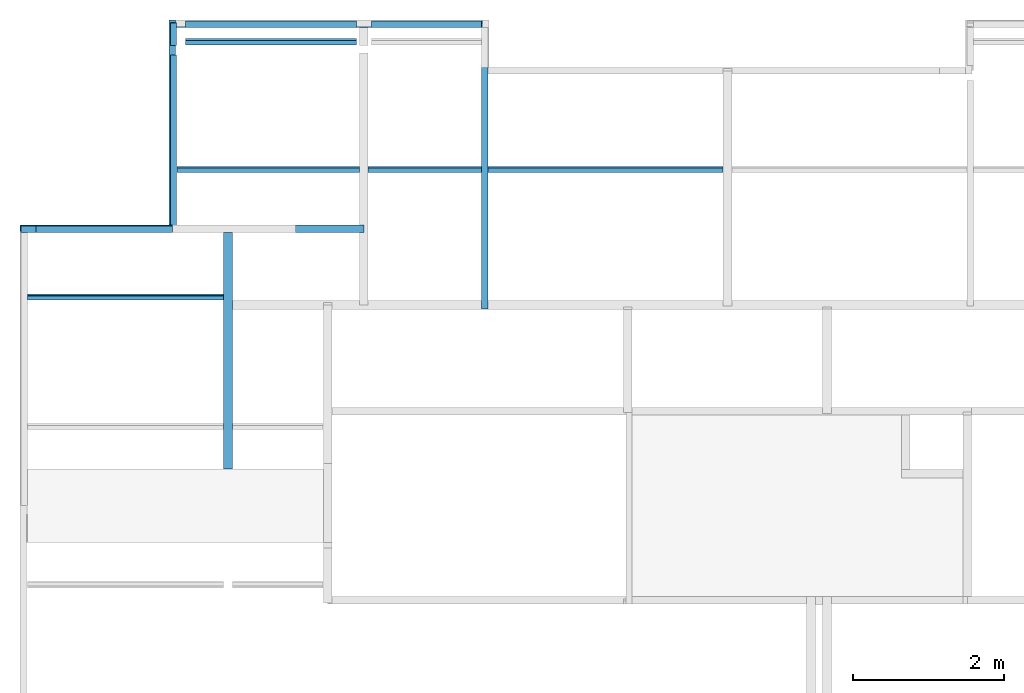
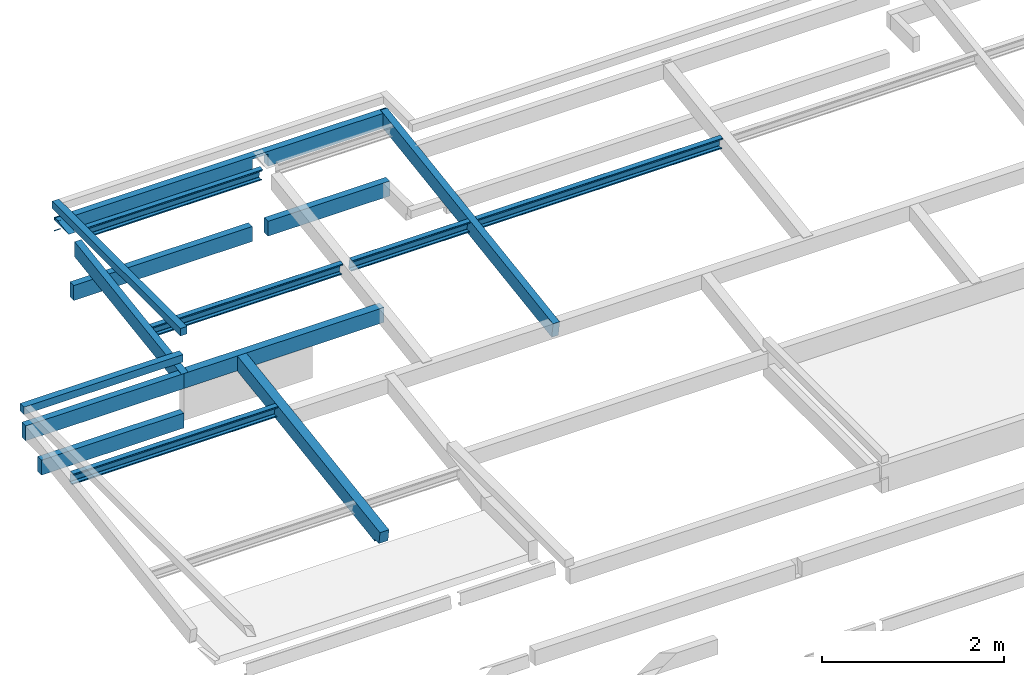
# One storey, part 4 of 9: 15 beams.
"""IFC4 building model written with IfcOpenShell, lengths in metres."""

import ifcopenshell
import ifcopenshell.guid

model = None  # the IFC model being written
_history = None  # IfcOwnerHistory: only IFC2X3 demands one
_inside = {}  # id of a spatial element -> (the spatial element, [elements in it])
_under = {}  # id of a project, library or spatial element -> (it, [spatial elements below it])
_declared = {}  # id of a project -> (the project, [libraries it declares])
_typed = {}  # id of a type object -> (the type object, [elements of that type])
_made_of = {}  # id of a material, layer set ... -> (it, [elements and type objects made of it])


def new_model(schema):
    """Start an empty IFC model of exactly this schema.

    Asked for "IFC4X3", IfcOpenShell would pick the latest addendum, in which some entities
    have other attributes; the version numbers below select the first issue.
    IFC2X3 requires an IfcOwnerHistory on every rooted entity: one is made here for all.
    """
    global model, _history
    if schema == "IFC4X3":
        model = ifcopenshell.file(schema_version=(4, 3, 0, 0))
    else:
        model = ifcopenshell.file(schema=schema)
    _inside.clear()
    _under.clear()
    _declared.clear()
    _typed.clear()
    _made_of.clear()
    _history = None
    if model.schema == "IFC2X3":
        org = make("IfcOrganization", Name="unknown")
        user = make(
            "IfcPersonAndOrganization",
            ThePerson=make("IfcPerson", FamilyName="unknown"),
            TheOrganization=org,
        )
        app = make(
            "IfcApplication",
            ApplicationDeveloper=org,
            Version="unknown",
            ApplicationFullName="unknown",
            ApplicationIdentifier="unknown",
        )
        _history = make(
            "IfcOwnerHistory",
            OwningUser=user,
            OwningApplication=app,
            ChangeAction="ADDED",
            CreationDate=0,
        )
    return model


def make(cls, **values):
    """One entity of the class cls with the attributes given. An attribute that is None is left unset."""
    return model.create_entity(
        cls, **{name: value for name, value in values.items() if value is not None}
    )


def entity(cls, *values):
    """Any entity or typed value of the class cls, its attributes in the order of the schema. None: left unset."""
    e = model.create_entity(cls)
    for i, value in enumerate(values):
        if value is not None:
            e[i] = value
    return e


def rooted(cls, **values):
    """An entity with a GlobalId (a new one), such as an element, a storey or a relation."""
    return make(cls, GlobalId=ifcopenshell.guid.new(), OwnerHistory=_history, **values)


def si_unit(unit_type, name, prefix=None):
    """IfcSIUnit, for example si_unit("LENGTHUNIT", "METRE", prefix="MILLI")."""
    return make("IfcSIUnit", UnitType=unit_type, Prefix=prefix, Name=name)


def converted_unit(unit_type, name, factor, base, dimensions=None, offset=None):
    """IfcConversionBasedUnit, such as the inch: factor (a typed value) times the base unit."""
    return make(
        "IfcConversionBasedUnit"
        if offset is None
        else "IfcConversionBasedUnitWithOffset",
        ConversionOffset=offset,
        Dimensions=None
        if dimensions is None
        else entity("IfcDimensionalExponents", *dimensions),
        UnitType=unit_type,
        Name=name,
        ConversionFactor=make(
            "IfcMeasureWithUnit", ValueComponent=factor, UnitComponent=base
        ),
    )


def derived_unit(unit_type, elements):
    """IfcDerivedUnit: a product of units, each with its exponent."""
    return make(
        "IfcDerivedUnit",
        Elements=[
            make("IfcDerivedUnitElement", Unit=unit, Exponent=power)
            for unit, power in elements
        ],
        UnitType=unit_type,
    )


def assignment(units):
    """IfcUnitAssignment: the units of a project."""
    return None if units is None else make("IfcUnitAssignment", Units=units)


def point(xyz):
    """IfcCartesianPoint."""
    return None if xyz is None else make("IfcCartesianPoint", Coordinates=xyz)


def direction(xyz):
    """IfcDirection."""
    return None if xyz is None else make("IfcDirection", DirectionRatios=xyz)


def frame(location, z_axis=None, x_axis=None):
    """IfcAxis2Placement3D, a coordinate frame: its origin and axes. An axis left out is left unset."""
    return make(
        "IfcAxis2Placement3D",
        Location=point(location),
        Axis=direction(z_axis),
        RefDirection=direction(x_axis),
    )


def origin():
    """The frame at (0, 0, 0) with its axes left unset."""
    return frame((0.0, 0.0, 0.0))


def place(relative_to, where):
    """IfcLocalPlacement: puts the frame where relative to a parent placement (None: the world)."""
    return make(
        "IfcLocalPlacement", PlacementRelTo=relative_to, RelativePlacement=where
    )


def context(
    kind, dimensions, precision=None, world=None, true_north=None, identifier=None
):
    """IfcGeometricRepresentationContext, for example the 3D "Model" context."""
    return make(
        "IfcGeometricRepresentationContext",
        ContextIdentifier=identifier,
        ContextType=kind,
        CoordinateSpaceDimension=dimensions,
        Precision=precision,
        WorldCoordinateSystem=world,
        TrueNorth=true_north,
    )


def subcontext(parent, identifier, kind, view, scale=None):
    """IfcGeometricRepresentationSubContext, for example "Body" below "Model"."""
    return make(
        "IfcGeometricRepresentationSubContext",
        ContextIdentifier=identifier,
        ContextType=kind,
        ParentContext=parent,
        TargetScale=scale,
        TargetView=view,
    )


def project(units=None, contexts=None):
    """IfcProject with its units and contexts."""
    return rooted(
        "IfcProject",
        Name="project",
        RepresentationContexts=contexts,
        UnitsInContext=assignment(units),
    )


def spatial(cls, under=None, at=None, **own):
    """A site, building, storey or space (cls), placed at a placement, below another one or the project."""
    s = rooted(cls, ObjectPlacement=at, **own)
    if under is not None:
        _under.setdefault(under.id(), (under, []))[1].append(s)
    return s


def point_list(points):
    """IfcCartesianPointList2D or 3D."""
    cls = (
        "IfcCartesianPointList2D" if len(points[0]) == 2 else "IfcCartesianPointList3D"
    )
    return make(cls, CoordList=points)


def line(*indices):
    """IfcLineIndex: a straight run through numbered points of an indexed curve."""
    return model.create_entity("IfcLineIndex", indices)


def arc(*indices):
    """IfcArcIndex: an arc through three numbered points of an indexed curve."""
    return model.create_entity("IfcArcIndex", indices)


def indexed_curve(points, segments=None, self_intersect=None):
    """IfcIndexedPolyCurve: lines and arcs through numbered points (the first is 1)."""
    return make(
        "IfcIndexedPolyCurve",
        Points=point_list(points),
        Segments=segments,
        SelfIntersect=self_intersect,
    )


def outline(outer, holes=None, kind="AREA"):
    """IfcArbitraryClosedProfileDef: a profile drawn as a closed curve; with holes, ...WithVoids."""
    if holes is None:
        return make("IfcArbitraryClosedProfileDef", ProfileType=kind, OuterCurve=outer)
    return make(
        "IfcArbitraryProfileDefWithVoids",
        ProfileType=kind,
        OuterCurve=outer,
        InnerCurves=holes,
    )


def extrude(swept, where, along, depth):
    """IfcExtrudedAreaSolid: the profile swept, set in the frame where, extruded along a direction by depth."""
    return make(
        "IfcExtrudedAreaSolid",
        SweptArea=swept,
        Position=where,
        ExtrudedDirection=direction(along),
        Depth=depth,
    )


def shape(context_of_items, identifier, shape_type, items):
    """IfcShapeRepresentation: the items that make up one representation, for example the "Body"."""
    return make(
        "IfcShapeRepresentation",
        ContextOfItems=context_of_items,
        RepresentationIdentifier=identifier,
        RepresentationType=shape_type,
        Items=items,
    )


def source(mapping_origin, context_of_items, identifier, shape_type, items):
    """IfcRepresentationMap: a shape defined once, which mapped items show again and again."""
    return make(
        "IfcRepresentationMap",
        MappingOrigin=mapping_origin,
        MappedRepresentation=shape(context_of_items, identifier, shape_type, items),
    )


def transform(
    local_origin,
    x_axis=None,
    y_axis=None,
    z_axis=None,
    scale=None,
    scale2=None,
    scale3=None,
    uniform=True,
):
    """IfcCartesianTransformationOperator3D, or its non-uniform kind. x_axis, y_axis, z_axis: its Axis1, 2, 3."""
    if uniform:
        return make(
            "IfcCartesianTransformationOperator3D",
            Axis1=direction(x_axis),
            Axis2=direction(y_axis),
            LocalOrigin=point(local_origin),
            Scale=scale,
            Axis3=direction(z_axis),
        )
    return make(
        "IfcCartesianTransformationOperator3DnonUniform",
        Axis1=direction(x_axis),
        Axis2=direction(y_axis),
        LocalOrigin=point(local_origin),
        Scale=scale,
        Axis3=direction(z_axis),
        Scale2=scale2,
        Scale3=scale3,
    )


def mapped(mapping_source, mapping_target):
    """IfcMappedItem: shows the shape of a source again, moved by a transform."""
    return make(
        "IfcMappedItem", MappingSource=mapping_source, MappingTarget=mapping_target
    )


def material(Name=None, Category=None):
    """IfcMaterial."""
    return make("IfcMaterial", Name=Name, Category=Category)


def made_of(thing, what):
    """Note that an element or type object is made of a material, layer set ...; save() writes the relation."""
    if what is not None:
        _made_of.setdefault(what.id(), (what, []))[1].append(thing)
    return thing


def type_object(cls, material=None, **own):
    """A type object (cls), such as IfcWallType, which elements share."""
    return made_of(rooted(cls, **own), material)


def type_shapes(of_type, sources):
    """Give a type object the sources (RepresentationMaps) that its elements show as mapped items."""
    of_type.RepresentationMaps = sources


def element(
    cls,
    number,
    at=None,
    inside=None,
    cuts=None,
    type_object=None,
    material=None,
    context=None,
    identifier="Body",
    shape_type=None,
    held_by="IfcProductDefinitionShape",
    body=None,
    shapes=None,
    **own,
):
    """One element of the class cls, such as IfcWall. Its Tag is "e" and its number.

    at: its placement. inside: the storey or other place that contains it. cuts: it is an
    opening in that element (IfcRelVoidsElement). A single representation is given by context,
    identifier, shape_type and body (its items); several are given by shapes. held_by: the class
    of the entity that holds the representations. save() writes the other relations.
    """
    e = rooted(cls, Tag="e%d" % number, ObjectPlacement=at, **own)
    if body is not None:
        shapes = [shape(context, identifier, shape_type, body)]
    if shapes is not None:
        e.Representation = make(held_by, Representations=shapes)
    if inside is not None:
        _inside.setdefault(inside.id(), (inside, []))[1].append(e)
    if cuts is not None:
        rooted(
            "IfcRelVoidsElement", RelatingBuildingElement=cuts, RelatedOpeningElement=e
        )
    if type_object is not None:
        _typed.setdefault(type_object.id(), (type_object, []))[1].append(e)
    return made_of(e, material)


def aggregate(whole, parts):
    """IfcRelAggregates: a whole, such as a stair, and the parts it consists of."""
    return rooted("IfcRelAggregates", RelatingObject=whole, RelatedObjects=parts)


def save(model, path):
    """Write the relations noted so far, then the file.

    IfcRelAggregates (storeys below a building ...), IfcRelContainedInSpatialStructure (elements
    in a storey), IfcRelDefinesByType, IfcRelAssociatesMaterial and IfcRelDeclares: one each for
    every whole, place, type object, material and project.
    """
    for whole, parts in _under.values():
        aggregate(whole, parts)
    for where, things in _inside.values():
        rooted(
            "IfcRelContainedInSpatialStructure",
            RelatedElements=things,
            RelatingStructure=where,
        )
    for kind, things in _typed.values():
        rooted("IfcRelDefinesByType", RelatedObjects=things, RelatingType=kind)
    for what, things in _made_of.values():
        rooted("IfcRelAssociatesMaterial", RelatedObjects=things, RelatingMaterial=what)
    for by, libraries in _declared.values():
        rooted("IfcRelDeclares", RelatingContext=by, RelatedDefinitions=libraries)
    model.write(path)


model = new_model("IFC4")

# Units and contexts
model_context = context("Model", 3, precision=1e-05, world=origin(), true_north=direction((6.123031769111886e-17, 1.0)))
body_context = subcontext(model_context, "Body", "Model", "MODEL_VIEW")
ifc_project = project(units=[si_unit("LENGTHUNIT", "METRE"), si_unit("AREAUNIT", "SQUARE_METRE"), si_unit("VOLUMEUNIT", "CUBIC_METRE"), converted_unit("PLANEANGLEUNIT", "DEGREE", entity("IfcRatioMeasure", 0.017453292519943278), si_unit("PLANEANGLEUNIT", "RADIAN"), dimensions=[0, 0, 0, 0, 0, 0, 0]), si_unit("MASSUNIT", "GRAM", prefix="KILO"), derived_unit("MASSDENSITYUNIT", [(si_unit("MASSUNIT", "GRAM", prefix="KILO"), 1), (si_unit("LENGTHUNIT", "METRE"), -3)]), derived_unit("IONCONCENTRATIONUNIT", [(si_unit("MASSUNIT", "GRAM", prefix="KILO"), 1), (si_unit("LENGTHUNIT", "METRE"), -3)]), derived_unit("MOMENTOFINERTIAUNIT", [(si_unit("LENGTHUNIT", "METRE"), 4)]), si_unit("TIMEUNIT", "SECOND"), si_unit("FREQUENCYUNIT", "HERTZ"), si_unit("THERMODYNAMICTEMPERATUREUNIT", "DEGREE_CELSIUS"), derived_unit("THERMALTRANSMITTANCEUNIT", [(si_unit("MASSUNIT", "GRAM", prefix="KILO"), 1), (si_unit("THERMODYNAMICTEMPERATUREUNIT", "KELVIN"), -1), (si_unit("TIMEUNIT", "SECOND"), -3)]), derived_unit("THERMALCONDUCTANCEUNIT", [(si_unit("MASSUNIT", "GRAM", prefix="KILO"), 1), (si_unit("THERMODYNAMICTEMPERATUREUNIT", "KELVIN"), -1), (si_unit("TIMEUNIT", "SECOND"), -3), (si_unit("LENGTHUNIT", "METRE"), 1)]), derived_unit("VOLUMETRICFLOWRATEUNIT", [(si_unit("LENGTHUNIT", "METRE"), 3), (si_unit("TIMEUNIT", "SECOND"), -1)]), derived_unit("MASSFLOWRATEUNIT", [(si_unit("MASSUNIT", "GRAM", prefix="KILO"), 1), (si_unit("TIMEUNIT", "SECOND"), -1)]), derived_unit("ROTATIONALFREQUENCYUNIT", [(si_unit("TIMEUNIT", "SECOND"), -1)]), si_unit("ELECTRICCURRENTUNIT", "AMPERE"), si_unit("ELECTRICVOLTAGEUNIT", "VOLT"), si_unit("POWERUNIT", "WATT"), si_unit("FORCEUNIT", "NEWTON", prefix="KILO"), si_unit("ILLUMINANCEUNIT", "LUX"), si_unit("LUMINOUSFLUXUNIT", "LUMEN"), si_unit("LUMINOUSINTENSITYUNIT", "CANDELA"), derived_unit("USERDEFINED", [(si_unit("MASSUNIT", "GRAM", prefix="KILO"), -1), (si_unit("LENGTHUNIT", "METRE"), -2), (si_unit("TIMEUNIT", "SECOND"), 3), (si_unit("LUMINOUSFLUXUNIT", "LUMEN"), 1)]), derived_unit("USERDEFINED", [(si_unit("MASSUNIT", "GRAM", prefix="KILO"), 1), (si_unit("TIMEUNIT", "SECOND"), -3), (si_unit("LENGTHUNIT", "METRE"), 3), (si_unit("ELECTRICCURRENTUNIT", "AMPERE"), -2)]), derived_unit("SOUNDPOWERUNIT", [(si_unit("MASSUNIT", "GRAM", prefix="KILO"), 1), (si_unit("TIMEUNIT", "SECOND"), -3), (si_unit("LENGTHUNIT", "METRE"), 2)]), derived_unit("SOUNDPRESSUREUNIT", [(si_unit("MASSUNIT", "GRAM", prefix="KILO"), 1), (si_unit("LENGTHUNIT", "METRE"), -1), (si_unit("TIMEUNIT", "SECOND"), -2)]), derived_unit("LINEARVELOCITYUNIT", [(si_unit("LENGTHUNIT", "METRE"), 1), (si_unit("TIMEUNIT", "SECOND"), -1)]), si_unit("PRESSUREUNIT", "PASCAL"), derived_unit("USERDEFINED", [(si_unit("MASSUNIT", "GRAM", prefix="KILO"), 1), (si_unit("LENGTHUNIT", "METRE"), -2), (si_unit("TIMEUNIT", "SECOND"), -2)]), derived_unit("LINEARFORCEUNIT", [(si_unit("MASSUNIT", "GRAM", prefix="KILO"), 1), (si_unit("TIMEUNIT", "SECOND"), -2)]), derived_unit("PLANARFORCEUNIT", [(si_unit("MASSUNIT", "GRAM", prefix="KILO"), 1), (si_unit("LENGTHUNIT", "METRE"), -1), (si_unit("TIMEUNIT", "SECOND"), -2)]), derived_unit("SPECIFICHEATCAPACITYUNIT", [(si_unit("THERMODYNAMICTEMPERATUREUNIT", "KELVIN"), -1), (si_unit("LENGTHUNIT", "METRE"), 2), (si_unit("TIMEUNIT", "SECOND"), -2)]), derived_unit("HEATINGVALUEUNIT", [(si_unit("LENGTHUNIT", "METRE"), 2), (si_unit("TIMEUNIT", "SECOND"), -2)]), derived_unit("VAPORPERMEABILITYUNIT", [(si_unit("LENGTHUNIT", "METRE"), -1), (si_unit("TIMEUNIT", "SECOND"), 1)]), derived_unit("DYNAMICVISCOSITYUNIT", [(si_unit("MASSUNIT", "GRAM", prefix="KILO"), 1), (si_unit("TIMEUNIT", "SECOND"), -1), (si_unit("LENGTHUNIT", "METRE"), -1)]), derived_unit("THERMALEXPANSIONCOEFFICIENTUNIT", [(si_unit("THERMODYNAMICTEMPERATUREUNIT", "KELVIN"), -1)]), derived_unit("MODULUSOFELASTICITYUNIT", [(si_unit("MASSUNIT", "GRAM", prefix="KILO"), 1), (si_unit("LENGTHUNIT", "METRE"), -1), (si_unit("TIMEUNIT", "SECOND"), -2)]), derived_unit("ISOTHERMALMOISTURECAPACITYUNIT", [(si_unit("LENGTHUNIT", "METRE"), 3), (si_unit("MASSUNIT", "GRAM", prefix="KILO"), -1)]), derived_unit("MOISTUREDIFFUSIVITYUNIT", [(si_unit("TIMEUNIT", "SECOND"), -1), (si_unit("LENGTHUNIT", "METRE"), 2)])], contexts=[model_context])

# Site, building, storey
site_placement = place(None, origin())
site = spatial("IfcSite", under=ifc_project, at=site_placement, Name="Default", CompositionType="ELEMENT")
building_placement = place(site_placement, origin())
building = spatial("IfcBuilding", under=site, at=building_placement, Name="Las nubes", CompositionType="ELEMENT")
storey_placement = place(building_placement, frame((0.0, 0.0, 14.100000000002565)))
storey = spatial("IfcBuildingStorey", under=building, at=storey_placement, Name="CUBIERTA", CompositionType="ELEMENT", Elevation=14.100000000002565)

# Beams
ifc_material_1 = material(Name="Concrete, Cast In Situ", Category="Materials")
beam_type_1 = type_object("IfcBeamType", Name="M_Concrete-Rectangular Beam:(0.085x0.20)", PredefinedType="BEAM", material=ifc_material_1)
shared_shape_1 = source(origin(), body_context, "Body", "SweptSolid", [
    extrude(outline(indexed_curve([(-0.09999999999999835, -0.04250000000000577), (0.10000000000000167, -0.04250000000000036), (0.10000000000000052, 0.04250000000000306), (-0.0999999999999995, 0.04250000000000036), (-0.09999999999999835, -0.04250000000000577)], self_intersect=False)), frame((0.17250000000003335, -2.7675051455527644, 14.10000000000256), z_axis=(1.0, 0.0, 0.0), x_axis=(0.0, 0.0, -1.0)), (0.0, 0.0, 1.0), 1.8024999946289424),
])
type_shapes(beam_type_1, [shared_shape_1])
beam_1_placement = place(storey_placement, frame((0.0, 0.0, -14.100000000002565)))
element("IfcBeam", 1, at=beam_1_placement, inside=storey, type_object=beam_type_1, material=ifc_material_1, Name="M_Concrete-Rectangular Beam:(0.085x0.20)", ObjectType="M_Concrete-Rectangular Beam:(0.085x0.20)", PredefinedType="BEAM", context=body_context, shape_type="MappedRepresentation", body=[
    mapped(shared_shape_1, transform((0.0, 0.0, 0.0), scale=1.0)),
])
beam_type_2 = type_object("IfcBeamType", Name="M_Concrete-Rectangular Beam:(0.085x0.20)", PredefinedType="BEAM", material=ifc_material_1)
shared_shape_2 = source(origin(), body_context, "Body", "SweptSolid", [
    extrude(outline(indexed_curve([(-0.09999999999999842, -0.04250000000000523), (0.1000000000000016, -0.04250000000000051), (0.10000000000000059, 0.042500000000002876), (-0.09999999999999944, 0.04250000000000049), (-0.09999999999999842, -0.04250000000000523)], self_intersect=False)), frame((4.609999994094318, -0.05250002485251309, 14.10000000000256), z_axis=(1.0, 0.0, 0.0), x_axis=(0.0, 0.0, -1.0)), (0.0, 0.0, 1.0), 1.5424999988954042),
    extrude(outline(indexed_curve([(-0.09999999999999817, -0.0425000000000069), (0.10000000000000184, -0.042499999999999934), (0.10000000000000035, 0.04250000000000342), (-0.09999999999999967, 0.04249999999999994), (-0.09999999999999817, -0.0425000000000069)], self_intersect=False)), frame((2.14749999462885, -0.05250002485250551, 14.10000000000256), z_axis=(1.0, 0.0, 0.0), x_axis=(0.0, 0.0, -1.0)), (0.0, 0.0, 1.0), 2.2624999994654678),
])
type_shapes(beam_type_2, [shared_shape_2])
beam_2_placement = place(storey_placement, frame((0.0, 0.0, -14.100000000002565)))
element("IfcBeam", 2, at=beam_2_placement, inside=storey, type_object=beam_type_2, material=ifc_material_1, Name="M_Concrete-Rectangular Beam:(0.085x0.20)", ObjectType="M_Concrete-Rectangular Beam:(0.085x0.20)", PredefinedType="BEAM", context=body_context, shape_type="MappedRepresentation", body=[
    mapped(shared_shape_2, transform((0.0, 0.0, 0.0), scale=1.0)),
])
beam_type_3 = type_object("IfcBeamType", Name="M_Concrete-Rectangular Beam:(0.115x0.20)", PredefinedType="BEAM", material=ifc_material_1)
shared_shape_3 = source(origin(), body_context, "Body", "SweptSolid", [
    extrude(outline(indexed_curve([(-0.08234346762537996, -0.7210921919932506), (-0.07593692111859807, -0.7210921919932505), (0.07816478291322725, -0.7210921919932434), (0.0918329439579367, -0.6299711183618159), (0.1176565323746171, -0.6338446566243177), (0.11765653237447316, 2.414885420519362), (-0.08234346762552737, 2.4448854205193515), (-0.08234346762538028, -0.7125472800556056), (-0.0823434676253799, -0.7201312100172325), (-0.08234346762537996, -0.7210921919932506)], self_intersect=False)), frame((2.6525010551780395, -5.215621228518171, 14.28426713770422), z_axis=(1.0, 0.0, 0.0), x_axis=(0.0, 0.14834045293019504, -0.9889363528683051)), (0.0, 0.0, 1.0), 0.11500000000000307),
])
type_shapes(beam_type_3, [shared_shape_3])
beam_3_placement = place(storey_placement, frame((0.0, 0.0, -14.100000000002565)))
element("IfcBeam", 3, at=beam_3_placement, inside=storey, type_object=beam_type_3, material=ifc_material_1, Name="M_Concrete-Rectangular Beam:(0.115x0.20)", ObjectType="M_Concrete-Rectangular Beam:(0.115x0.20)", PredefinedType="BEAM", context=body_context, shape_type="MappedRepresentation", body=[
    mapped(shared_shape_3, transform((0.0, 0.0, 0.0), scale=1.0)),
])
beam_type_4 = type_object("IfcBeamType", Name="M_Concrete-Rectangular Beam:(0.085x0.20)", PredefinedType="BEAM", material=ifc_material_1)
shared_shape_4 = source(origin(), body_context, "Body", "SweptSolid", [
    extrude(outline(indexed_curve([(-2.299000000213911, -0.10572000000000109), (-0.7564999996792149, -0.10572000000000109), (-0.7564999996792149, 0.05858000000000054), (-0.5564999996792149, 0.05858000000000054), (-0.5564999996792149, -0.10572000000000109), (1.7059999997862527, -0.10572000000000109), (1.7059999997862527, 0.05858000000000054), (1.9059999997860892, 0.05858000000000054), (1.9059999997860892, 0.09427999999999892), (-2.299000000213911, 0.09427999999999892), (-2.299000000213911, -0.10572000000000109)], self_intersect=False)), frame((3.853499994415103, -0.09500002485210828, 15.041420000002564), z_axis=(0.0, 1.0, 0.0), x_axis=(-1.0, 0.0, 0.0)), (0.0, 0.0, 1.0), 0.08500000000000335),
])
type_shapes(beam_type_4, [shared_shape_4])
beam_4_placement = place(storey_placement, frame((0.0, 0.0, -14.100000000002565)))
element("IfcBeam", 4, at=beam_4_placement, inside=storey, type_object=beam_type_4, material=ifc_material_1, Name="M_Concrete-Rectangular Beam:(0.085x0.20)", ObjectType="M_Concrete-Rectangular Beam:(0.085x0.20)", PredefinedType="BEAM", context=body_context, shape_type="MappedRepresentation", body=[
    mapped(shared_shape_4, transform((0.0, 0.0, 0.0), scale=1.0)),
])
beam_type_5 = type_object("IfcBeamType", Name="M_Concrete-Rectangular Beam:(0.085x0.20)", PredefinedType="BEAM", material=ifc_material_1)
shared_shape_5 = source(origin(), body_context, "Body", "SweptSolid", [
    extrude(outline(indexed_curve([(-0.1327666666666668, -1.2683333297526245), (0.06723333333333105, -1.2683333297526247), (0.06723333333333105, 0.5341666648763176), (0.06553333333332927, 0.5341666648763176), (0.06553333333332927, 0.7341666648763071), (-0.1327666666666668, 0.7341666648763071), (-0.1327666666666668, -1.2683333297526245)], self_intersect=False)), frame((0.706666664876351, -2.8100000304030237, 14.595533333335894), z_axis=(0.0, 1.0, 0.0), x_axis=(0.0, 0.0, -1.0)), (0.0, 0.0, 1.0), 0.08500000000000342),
])
type_shapes(beam_type_5, [shared_shape_5])
beam_5_placement = place(storey_placement, frame((0.0, 0.0, -14.100000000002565)))
element("IfcBeam", 5, at=beam_5_placement, inside=storey, type_object=beam_type_5, material=ifc_material_1, Name="M_Concrete-Rectangular Beam:(0.085x0.20)", ObjectType="M_Concrete-Rectangular Beam:(0.085x0.20)", PredefinedType="BEAM", context=body_context, shape_type="MappedRepresentation", body=[
    mapped(shared_shape_5, transform((0.0, 0.0, 0.0), scale=1.0)),
])
ifc_material_2 = material(Name="Concrete - Cast-in-Place Concrete - 28 MPa SLAB", Category="Materials")
beam_type_6 = type_object("IfcBeamType", Name="M_Concrete-Rectangular Beam:(0.10x0.20)", PredefinedType="BEAM", material=ifc_material_2)
shared_shape_6 = source(origin(), body_context, "Body", "SweptSolid", [
    extrude(outline(indexed_curve([(-0.10000000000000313, -0.04999999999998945), (0.0999999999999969, -0.050000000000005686), (0.10000000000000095, 0.04999999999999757), (-0.09999999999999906, 0.050000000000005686), (-0.10000000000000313, -0.04999999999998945)], self_intersect=False)), frame((1.9749999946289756, -2.760000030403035, 14.628300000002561), z_axis=(1.0, 0.0, 0.0), x_axis=(0.0, 0.0, -1.0)), (0.0, 0.0, 1.0), 2.5349999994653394),
])
type_shapes(beam_type_6, [shared_shape_6])
beam_6_placement = place(storey_placement, frame((0.0, 0.0, -14.100000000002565)))
element("IfcBeam", 6, at=beam_6_placement, inside=storey, type_object=beam_type_6, material=ifc_material_2, Name="M_Concrete-Rectangular Beam:(0.10x0.20)", ObjectType="M_Concrete-Rectangular Beam:(0.10x0.20)", PredefinedType="BEAM", context=body_context, shape_type="MappedRepresentation", body=[
    mapped(shared_shape_6, transform((0.0, 0.0, 0.0), scale=1.0)),
])
beam_type_7 = type_object("IfcBeamType", Name="M_Concrete-Rectangular Beam:(0.085x0.10)", PredefinedType="BEAM", material=ifc_material_1)
shared_shape_7 = source(origin(), body_context, "Body", "SweptSolid", [
    extrude(outline(indexed_curve([(-0.04250000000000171, -0.04999999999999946), (0.04250000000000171, -0.04999999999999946), (0.04250000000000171, 0.050000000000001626), (-0.04250000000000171, 0.050000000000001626), (-0.04250000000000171, -0.04999999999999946)], self_intersect=False)), frame((1.9749999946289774, 0.0049999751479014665, 15.296800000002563), z_axis=(0.0, -1.0, 0.0), x_axis=(-1.0, 0.0, 0.0)), (0.0, 0.0, 1.0), 2.8150000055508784),
])
type_shapes(beam_type_7, [shared_shape_7])
beam_7_placement = place(storey_placement, frame((0.0, 0.0, -14.100000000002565)))
element("IfcBeam", 7, at=beam_7_placement, inside=storey, type_object=beam_type_7, material=ifc_material_1, Name="M_Concrete-Rectangular Beam:(0.085x0.10)", ObjectType="M_Concrete-Rectangular Beam:(0.085x0.10)", PredefinedType="BEAM", context=body_context, shape_type="MappedRepresentation", body=[
    mapped(shared_shape_7, transform((0.0, 0.0, 0.0), scale=1.0)),
])
ifc_material_3 = material(Name="Steel - 300+", Category="Materials")
beam_type_8 = type_object("IfcBeamType", Name="AUS-C Purlin:CR-1", PredefinedType="BEAM", material=ifc_material_3)
shared_shape_8 = source(origin(), body_context, "Body", "SweptSolid", [
    extrude(outline(indexed_curve([(-0.07614999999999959, -0.03615000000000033), (0.07334999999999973, -0.036150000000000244), (0.078299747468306, -0.03409974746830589), (0.08035000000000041, -0.02914999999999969), (0.08035000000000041, 0.020350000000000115), (0.07932487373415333, 0.022824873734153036), (0.0768500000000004, 0.023850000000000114), (0.06034999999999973, 0.023850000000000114), (0.06034999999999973, 0.02185000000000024), (0.0768499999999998, 0.02185000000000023), (0.07791066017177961, 0.02141066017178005), (0.07834999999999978, 0.020350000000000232), (0.07834999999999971, -0.029150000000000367), (0.07688553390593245, -0.032685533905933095), (0.07334999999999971, -0.03415000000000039), (-0.07615000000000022, -0.03415000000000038), (-0.07721066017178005, -0.033710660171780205), (-0.0776500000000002, -0.03265000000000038), (-0.07765000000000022, 0.02035000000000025), (-0.07721066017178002, 0.021410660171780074), (-0.0761500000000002, 0.02185000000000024), (-0.05965000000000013, 0.02185000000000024), (-0.05965000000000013, 0.023850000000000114), (-0.0761499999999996, 0.023850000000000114), (-0.07862487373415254, 0.02282487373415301), (-0.07964999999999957, 0.020350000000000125), (-0.07964999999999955, -0.032650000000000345), (-0.07862487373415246, -0.03512487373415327)], segments=[line(1, 2), arc(2, 3, 4), line(4, 5), arc(5, 6, 7), line(7, 8, 9, 10), arc(10, 11, 12), line(12, 13), arc(13, 14, 15), line(15, 16), arc(16, 17, 18), line(18, 19), arc(19, 20, 21), line(21, 22, 23, 24), arc(24, 25, 26), line(26, 27), arc(27, 28, 1)], self_intersect=False)), frame((-1.1599999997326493, 0.03415000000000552, 0.0003499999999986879), z_axis=(1.0, 0.0, 0.0), x_axis=(0.0, 0.0, -1.0)), (0.0, 0.0, 1.0), 2.262499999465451),
])
type_shapes(beam_type_8, [shared_shape_8])
beam_8_placement = place(storey_placement, frame((3.249999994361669, -0.2557392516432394, 0.9306191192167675), z_axis=(0.0, -0.14834045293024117, 0.9889363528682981), x_axis=(-1.0, 0.0, 0.0)))
element("IfcBeam", 8, at=beam_8_placement, inside=storey, type_object=beam_type_8, material=ifc_material_3, Name="AUS-C Purlin:CR-1", ObjectType="AUS-C Purlin:CR-1", PredefinedType="BEAM", context=body_context, shape_type="MappedRepresentation", body=[
    mapped(shared_shape_8, transform((0.0, 0.0, 0.0), scale=1.0)),
])
beam_type_9 = type_object("IfcBeamType", Name="AUS-C Purlin:CR-1", PredefinedType="BEAM", material=ifc_material_3)
shared_shape_9 = source(origin(), body_context, "Body", "SweptSolid", [
    extrude(outline(indexed_curve([(-0.07614999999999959, -0.023850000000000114), (-0.05965000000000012, -0.023850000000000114), (-0.05965000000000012, -0.02185000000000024), (-0.07615000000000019, -0.02185000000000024), (-0.07721066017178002, -0.021410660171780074), (-0.0776500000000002, -0.020350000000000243), (-0.07765000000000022, 0.03265000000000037), (-0.07721066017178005, 0.033710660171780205), (-0.0761500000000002, 0.03415000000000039), (0.07334999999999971, 0.03415000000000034), (0.07688553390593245, 0.03268553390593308), (0.07834999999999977, 0.029150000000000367), (0.07834999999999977, -0.02035000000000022), (0.07791066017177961, -0.021410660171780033), (0.07684999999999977, -0.02185000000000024), (0.06034999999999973, -0.02185000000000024), (0.06034999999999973, -0.023850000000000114), (0.07685000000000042, -0.023850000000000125), (0.07932487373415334, -0.022824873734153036), (0.0803500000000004, -0.020350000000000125), (0.0803500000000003, 0.029149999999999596), (0.078299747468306, 0.034099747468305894), (0.0733499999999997, 0.03615000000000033), (-0.07614999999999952, 0.036150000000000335), (-0.07862487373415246, 0.03512487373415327), (-0.07964999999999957, 0.032650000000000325), (-0.07964999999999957, -0.020350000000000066), (-0.07862487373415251, -0.022824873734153)], segments=[line(1, 2, 3, 4), arc(4, 5, 6), line(6, 7), arc(7, 8, 9), line(9, 10), arc(10, 11, 12), line(12, 13), arc(13, 14, 15), line(15, 16, 17, 18), arc(18, 19, 20), line(20, 21), arc(21, 22, 23), line(23, 24), arc(24, 25, 26), line(26, 27), arc(27, 28, 1)], self_intersect=False)), frame((-1.2163188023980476, -0.03415000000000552, 0.0003499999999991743), z_axis=(1.0, 0.0, 0.0), x_axis=(0.0, 0.0, -1.0)), (0.0, 0.0, 1.0), 2.418818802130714),
])
type_shapes(beam_type_9, [shared_shape_9])
beam_9_placement = place(storey_placement, frame((3.249999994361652, -1.945442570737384, 0.6771636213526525), z_axis=(0.0, -0.14834045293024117, 0.9889363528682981), x_axis=(1.0, 0.0, 0.0)))
element("IfcBeam", 9, at=beam_9_placement, inside=storey, type_object=beam_type_9, material=ifc_material_3, Name="AUS-C Purlin:CR-1", ObjectType="AUS-C Purlin:CR-1", PredefinedType="BEAM", context=body_context, shape_type="MappedRepresentation", body=[
    mapped(shared_shape_9, transform((0.0, 0.0, 0.0), scale=1.0)),
])
beam_type_10 = type_object("IfcBeamType", Name="AUS-C Purlin:CR-1", PredefinedType="BEAM", material=ifc_material_3)
shared_shape_10 = source(origin(), body_context, "Body", "SweptSolid", [
    extrude(outline(indexed_curve([(-0.07614999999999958, -0.023850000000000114), (-0.05965000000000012, -0.023850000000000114), (-0.05965000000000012, -0.02185000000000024), (-0.07615000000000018, -0.02185000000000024), (-0.07721066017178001, -0.021410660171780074), (-0.07765000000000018, -0.020350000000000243), (-0.0776500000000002, 0.03265000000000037), (-0.07721066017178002, 0.033710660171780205), (-0.07615000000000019, 0.03415000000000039), (0.07334999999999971, 0.03415000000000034), (0.07688553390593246, 0.03268553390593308), (0.07834999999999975, 0.029150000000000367), (0.07834999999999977, -0.02035000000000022), (0.07791066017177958, -0.02141066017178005), (0.07684999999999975, -0.02185000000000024), (0.060349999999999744, -0.02185000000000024), (0.060349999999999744, -0.023850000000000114), (0.0768500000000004, -0.023850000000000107), (0.07932487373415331, -0.022824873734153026), (0.08035000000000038, -0.020350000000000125), (0.08035000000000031, 0.029149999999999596), (0.07829974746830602, 0.034099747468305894), (0.0733499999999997, 0.03615000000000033), (-0.07614999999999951, 0.036150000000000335), (-0.07862487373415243, 0.03512487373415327), (-0.07964999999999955, 0.032650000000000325), (-0.07964999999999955, -0.020350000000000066), (-0.0786248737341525, -0.022824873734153)], segments=[line(1, 2, 3, 4), arc(4, 5, 6), line(6, 7), arc(7, 8, 9), line(9, 10), arc(10, 11, 12), line(12, 13), arc(13, 14, 15), line(15, 16, 17, 18), arc(18, 19, 20), line(20, 21), arc(21, 22, 23), line(23, 24), arc(24, 25, 26), line(26, 27), arc(27, 28, 1)], self_intersect=False)), frame((-0.7424894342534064, -0.03415000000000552, 0.00034999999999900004), z_axis=(1.0, 0.0, 0.0), x_axis=(0.0, 0.0, -1.0)), (0.0, 0.0, 1.0), 1.499989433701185),
])
type_shapes(beam_type_10, [shared_shape_10])
beam_10_placement = place(storey_placement, frame((5.309999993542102, -1.9454425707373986, 0.6771636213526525), z_axis=(0.0, -0.14834045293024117, 0.9889363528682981), x_axis=(1.0, 0.0, 0.0)))
element("IfcBeam", 10, at=beam_10_placement, inside=storey, type_object=beam_type_10, material=ifc_material_3, Name="AUS-C Purlin:CR-1", ObjectType="AUS-C Purlin:CR-1", PredefinedType="BEAM", context=body_context, shape_type="MappedRepresentation", body=[
    mapped(shared_shape_10, transform((0.0, 0.0, 0.0), scale=1.0)),
])
beam_type_11 = type_object("IfcBeamType", Name="AUS-C Purlin:CR-1", PredefinedType="BEAM", material=ifc_material_3)
shared_shape_11 = source(origin(), body_context, "Body", "SweptSolid", [
    extrude(outline(indexed_curve([(-0.07614999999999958, -0.023850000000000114), (-0.05965000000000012, -0.023850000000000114), (-0.05965000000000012, -0.02185000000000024), (-0.07615000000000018, -0.02185000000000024), (-0.07721066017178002, -0.021410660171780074), (-0.0776500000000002, -0.020350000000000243), (-0.07765000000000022, 0.03265000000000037), (-0.07721066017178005, 0.033710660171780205), (-0.07615000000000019, 0.03415000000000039), (0.07334999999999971, 0.03415000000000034), (0.07688553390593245, 0.03268553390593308), (0.07834999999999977, 0.029150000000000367), (0.07834999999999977, -0.02035000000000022), (0.07791066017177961, -0.021410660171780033), (0.07684999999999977, -0.02185000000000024), (0.060349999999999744, -0.02185000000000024), (0.060349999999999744, -0.023850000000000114), (0.07685000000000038, -0.023850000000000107), (0.0793248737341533, -0.022824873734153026), (0.0803500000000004, -0.020350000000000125), (0.0803500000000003, 0.029149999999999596), (0.078299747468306, 0.034099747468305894), (0.0733499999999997, 0.03615000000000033), (-0.07614999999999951, 0.036150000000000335), (-0.07862487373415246, 0.03512487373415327), (-0.07964999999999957, 0.032650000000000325), (-0.07964999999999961, -0.020350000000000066), (-0.07862487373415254, -0.02282487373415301)], segments=[line(1, 2, 3, 4), arc(4, 5, 6), line(6, 7), arc(7, 8, 9), line(9, 10), arc(10, 11, 12), line(12, 13), arc(13, 14, 15), line(15, 16, 17, 18), arc(18, 19, 20), line(20, 21), arc(21, 22, 23), line(23, 24), arc(24, 25, 26), line(26, 27), arc(27, 28, 1)], self_intersect=False)), frame((-1.5635826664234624, -0.03415000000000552, 0.000349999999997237), z_axis=(1.0, 0.0, 0.0), x_axis=(0.0, 0.0, -1.0)), (0.0, 0.0, 1.0), 3.1098326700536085),
])
type_shapes(beam_type_11, [shared_shape_11])
beam_11_placement = place(storey_placement, frame((7.716249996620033, -1.9454425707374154, 0.6771636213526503), z_axis=(0.0, -0.14834045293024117, 0.9889363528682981), x_axis=(1.0, 0.0, 0.0)))
element("IfcBeam", 11, at=beam_11_placement, inside=storey, type_object=beam_type_11, material=ifc_material_3, Name="AUS-C Purlin:CR-1", ObjectType="AUS-C Purlin:CR-1", PredefinedType="BEAM", context=body_context, shape_type="MappedRepresentation", body=[
    mapped(shared_shape_11, transform((0.0, 0.0, 0.0), scale=1.0)),
])
beam_type_12 = type_object("IfcBeamType", Name="AUS-C Purlin:CR-1", PredefinedType="BEAM", material=ifc_material_3)
shared_shape_12 = source(origin(), body_context, "Body", "SweptSolid", [
    extrude(outline(indexed_curve([(-0.07614999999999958, -0.023850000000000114), (-0.05965000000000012, -0.023850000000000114), (-0.05965000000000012, -0.02185000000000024), (-0.07615000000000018, -0.02185000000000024), (-0.07721066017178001, -0.021410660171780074), (-0.07765000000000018, -0.020350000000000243), (-0.0776500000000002, 0.03265000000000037), (-0.07721066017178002, 0.033710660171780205), (-0.07615000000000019, 0.03415000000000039), (0.07334999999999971, 0.03415000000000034), (0.07688553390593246, 0.03268553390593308), (0.07834999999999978, 0.029150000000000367), (0.07834999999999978, -0.02035000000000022), (0.07791066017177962, -0.021410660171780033), (0.0768499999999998, -0.02185000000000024), (0.060349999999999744, -0.02185000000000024), (0.060349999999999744, -0.023850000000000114), (0.07685000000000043, -0.023850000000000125), (0.07932487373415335, -0.022824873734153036), (0.08035000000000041, -0.020350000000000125), (0.08035000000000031, 0.029149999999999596), (0.07829974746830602, 0.034099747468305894), (0.0733499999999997, 0.03615000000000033), (-0.07614999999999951, 0.036150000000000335), (-0.07862487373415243, 0.03512487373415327), (-0.07964999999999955, 0.032650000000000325), (-0.0796499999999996, -0.020350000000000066), (-0.07862487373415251, -0.02282487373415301)], segments=[line(1, 2, 3, 4), arc(4, 5, 6), line(6, 7), arc(7, 8, 9), line(9, 10), arc(10, 11, 12), line(12, 13), arc(13, 14, 15), line(15, 16, 17, 18), arc(18, 19, 20), line(20, 21), arc(21, 22, 23), line(23, 24), arc(24, 25, 26), line(26, 27), arc(27, 28, 1)], self_intersect=False)), frame((-1.3043464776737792, -0.03415000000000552, 0.00034999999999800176), z_axis=(1.0, 0.0, 0.0), x_axis=(0.0, 0.0, -1.0)), (0.0, 0.0, 1.0), 2.593573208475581),
])
type_shapes(beam_type_12, [shared_shape_12])
beam_12_placement = place(storey_placement, frame((1.362500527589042, -3.6354425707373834, 0.4236636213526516), z_axis=(0.0, -0.14834045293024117, 0.9889363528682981), x_axis=(1.0, 0.0, 0.0)))
element("IfcBeam", 12, at=beam_12_placement, inside=storey, type_object=beam_type_12, material=ifc_material_3, Name="AUS-C Purlin:CR-1", ObjectType="AUS-C Purlin:CR-1", PredefinedType="BEAM", context=body_context, shape_type="MappedRepresentation", body=[
    mapped(shared_shape_12, transform((0.0, 0.0, 0.0), scale=1.0)),
])
beam_type_13 = type_object("IfcBeamType", Name="M_Concrete-Rectangular Beam:(0.085x0.20)", PredefinedType="BEAM", material=ifc_material_1)
shared_shape_13 = source(origin(), body_context, "Body", "SweptSolid", [
    extrude(outline(indexed_curve([(-0.1000000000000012, -0.04250000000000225), (0.099999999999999, -0.04250000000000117), (0.09999999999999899, 0.04250000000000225), (-0.10000000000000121, 0.04250000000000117), (-0.1000000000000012, -0.04250000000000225)], self_intersect=False)), frame((6.109999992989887, -0.022665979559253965, 15.045356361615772), z_axis=(0.0, -0.9889363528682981, -0.1483404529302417), x_axis=(0.0, 0.1483404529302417, -0.9889363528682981)), (0.0, 0.0, 1.0), 3.8281492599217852),
])
type_shapes(beam_type_13, [shared_shape_13])
beam_13_placement = place(storey_placement, frame((0.0, 0.0, -14.100000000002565)))
element("IfcBeam", 13, at=beam_13_placement, inside=storey, type_object=beam_type_13, material=ifc_material_1, Name="M_Concrete-Rectangular Beam:(0.085x0.20)", ObjectType="M_Concrete-Rectangular Beam:(0.085x0.20)", PredefinedType="BEAM", context=body_context, shape_type="MappedRepresentation", body=[
    mapped(shared_shape_13, transform((0.0, 0.0, 0.0), scale=1.0)),
])
beam_type_14 = type_object("IfcBeamType", Name="M_Concrete-Rectangular Beam:(0.085x0.20)", PredefinedType="BEAM", material=ifc_material_1)
shared_shape_14 = source(origin(), body_context, "Body", "SweptSolid", [
    extrude(outline(indexed_curve([(-0.009744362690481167, -0.0007226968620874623), (0.005034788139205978, -0.00072269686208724), (0.004709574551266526, 0.0014453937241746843), (-0.009744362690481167, -0.0007226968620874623)], self_intersect=False)), frame((1.9474999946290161, -0.009277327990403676, 14.95117230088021), z_axis=(1.0, 0.0, 0.0), x_axis=(0.0, 0.0, -1.0)), (0.0, 0.0, 1.0), 0.08500000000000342),
    extrude(outline(indexed_curve([(-1.1806669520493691, -0.0999999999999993), (1.1656669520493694, -0.1000000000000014), (1.1956669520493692, 0.09999999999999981), (-1.1806669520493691, 0.10000000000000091), (-1.1806669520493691, -0.0999999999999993)], self_intersect=False)), frame((1.9474999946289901, -1.627604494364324, 14.804615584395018), z_axis=(1.0, 0.0, 0.0), x_axis=(0.0, 0.9889363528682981, 0.14834045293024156)), (0.0, 0.0, 1.0), 0.0850000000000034),
    extrude(outline(indexed_curve([(-0.09943342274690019, -0.014915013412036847), (0.19886684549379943, -0.014915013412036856), (-0.09943342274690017, 0.029830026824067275), (-0.09943342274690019, -0.014915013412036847)], self_intersect=False)), frame((1.9474999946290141, -0.13362085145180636, 15.114749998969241), z_axis=(1.0, 0.0, 0.0), x_axis=(0.0, -0.988936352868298, -0.14834045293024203)), (0.0, 0.0, 1.0), 0.08500000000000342),
])
type_shapes(beam_type_14, [shared_shape_14])
beam_14_placement = place(storey_placement, frame((0.0, 0.0, -14.100000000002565)))
element("IfcBeam", 14, at=beam_14_placement, inside=storey, type_object=beam_type_14, material=ifc_material_1, Name="M_Concrete-Rectangular Beam:(0.085x0.20)", ObjectType="M_Concrete-Rectangular Beam:(0.085x0.20)", PredefinedType="BEAM", context=body_context, shape_type="MappedRepresentation", body=[
    mapped(shared_shape_14, transform((0.0, 0.0, 0.0), scale=1.0)),
])
beam_type_15 = type_object("IfcBeamType", Name="M_Concrete-Rectangular Beam:(0.085x0.10)", PredefinedType="BEAM", material=ifc_material_1)
shared_shape_15 = source(origin(), body_context, "Body", "SweptSolid", [
    extrude(outline(indexed_curve([(-0.05000000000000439, -0.04249999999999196), (0.04999999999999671, -0.04250000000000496), (0.05000000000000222, 0.04249999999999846), (-0.04999999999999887, 0.04250000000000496), (-0.05000000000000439, -0.04249999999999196)], self_intersect=False)), frame((1.9749999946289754, -2.75250003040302, 14.92580000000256), z_axis=(-1.0, 0.0, 0.0), x_axis=(0.0, 0.0, -1.0)), (0.0, 0.0, 1.0), 2.0174999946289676),
])
type_shapes(beam_type_15, [shared_shape_15])
beam_15_placement = place(storey_placement, frame((0.0, 0.0, -14.100000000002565)))
element("IfcBeam", 15, at=beam_15_placement, inside=storey, type_object=beam_type_15, material=ifc_material_1, Name="M_Concrete-Rectangular Beam:(0.085x0.10)", ObjectType="M_Concrete-Rectangular Beam:(0.085x0.10)", PredefinedType="BEAM", context=body_context, shape_type="MappedRepresentation", body=[
    mapped(shared_shape_15, transform((0.0, 0.0, 0.0), scale=1.0)),
])

save(model, "model.ifc")
